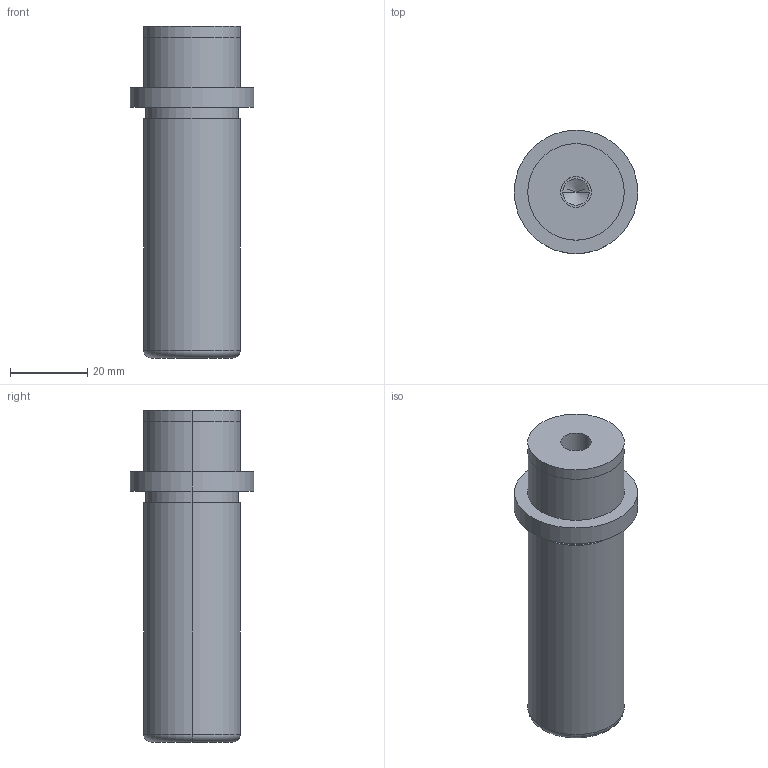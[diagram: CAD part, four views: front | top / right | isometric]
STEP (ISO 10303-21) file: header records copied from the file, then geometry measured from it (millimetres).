
FILE_DESCRIPTION(/* description */ (''),/* implementation_level */ '2;1');
FILE_NAME(/* name */ '3d_sgpw25-70_05265_r00.stp',/* time_stamp */ '2011-01-10T14:11:03+09:00',/* author */ ('MISUMI'),/* organization */ (''),/* preprocessor_version */ 'ST-DEVELOPER v11',/* originating_system */ 'UGS - NX 5.0',/* authorisation */ '');
FILE_SCHEMA (('CONFIG_CONTROL_DESIGN'));
Length unit declared in the file: millimetre
Products named in the file (1): 3d_sgpw25-70_05265_r00
Bounding box: 32 x 32 x 86 mm (x, y, z)
Volume: 41599.2 mm3; surface area: 9472.7 mm2
Topology: 1 solids, 1 shells, 31 faces, 64 edges, 38 vertices
Faces by surface type: cylinder 18, plane 7, cone 4, torus 2
Entity records: 890 total; most frequent: DIRECTION 162, CARTESIAN_POINT 130, ORIENTED_EDGE 120, AXIS2_PLACEMENT_3D 70, EDGE_CURVE 60, EDGE_LOOP 38, CIRCLE 38, VERTEX_POINT 38
